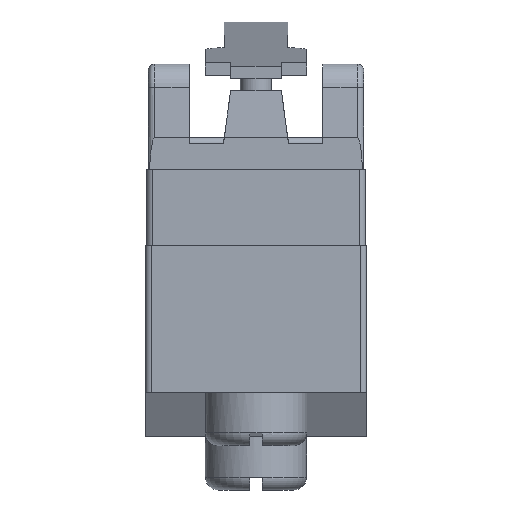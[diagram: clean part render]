
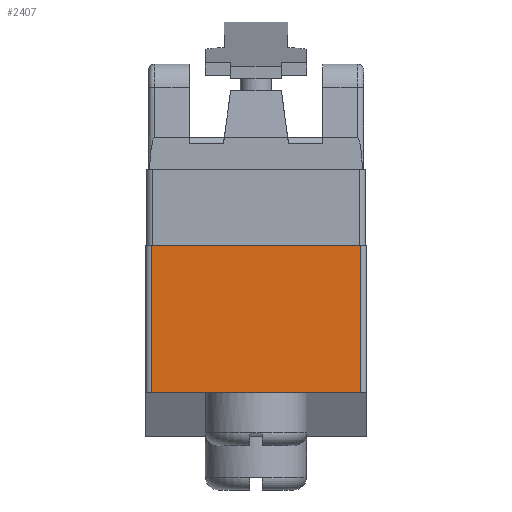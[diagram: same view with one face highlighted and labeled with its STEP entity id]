
A CAD part, front view. The second image highlights one B-rep face of the part: STEP entity #2407.
In plain terms, the highlighted planar face has unit normal (0, -1, 0).
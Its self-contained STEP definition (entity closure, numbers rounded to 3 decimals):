
#142=PLANE('',#2560);
#235=FACE_OUTER_BOUND('',#375,.T.);
#375=EDGE_LOOP('',(#1709,#1710,#1711,#1712));
#543=LINE('',#3544,#784);
#544=LINE('',#3547,#785);
#548=LINE('',#3559,#789);
#549=LINE('',#3560,#790);
#784=VECTOR('',#2831,11.6);
#785=VECTOR('',#2834,16.5);
#789=VECTOR('',#2844,16.5);
#790=VECTOR('',#2845,11.6);
#1109=VERTEX_POINT('',#3537);
#1112=VERTEX_POINT('',#3542);
#1113=VERTEX_POINT('',#3546);
#1118=VERTEX_POINT('',#3558);
#1345=EDGE_CURVE('',#1112,#1109,#543,.T.);
#1346=EDGE_CURVE('',#1113,#1109,#544,.T.);
#1352=EDGE_CURVE('',#1118,#1112,#548,.T.);
#1353=EDGE_CURVE('',#1113,#1118,#549,.T.);
#1709=ORIENTED_EDGE('',*,*,#1345,.F.);
#1710=ORIENTED_EDGE('',*,*,#1352,.F.);
#1711=ORIENTED_EDGE('',*,*,#1353,.F.);
#1712=ORIENTED_EDGE('',*,*,#1346,.T.);
#2407=ADVANCED_FACE('',(#235),#142,.T.);
#2560=AXIS2_PLACEMENT_3D('',#3557,#2842,#2843);
#2831=DIRECTION('',(0.,0.,-1.));
#2834=DIRECTION('',(1.,0.,0.));
#2842=DIRECTION('center_axis',(0.,-1.,0.));
#2843=DIRECTION('ref_axis',(0.,0.,-1.));
#2844=DIRECTION('',(1.,0.,0.));
#2845=DIRECTION('',(0.,0.,1.));
#3537=CARTESIAN_POINT('',(17.,-24.6,3.5));
#3542=CARTESIAN_POINT('',(17.,-24.6,15.1));
#3544=CARTESIAN_POINT('',(17.,-24.6,11.325));
#3546=CARTESIAN_POINT('',(0.5,-24.6,3.5));
#3547=CARTESIAN_POINT('',(8.75,-24.6,3.5));
#3557=CARTESIAN_POINT('Origin',(0.,-24.6,15.1));
#3558=CARTESIAN_POINT('',(0.5,-24.6,15.1));
#3559=CARTESIAN_POINT('',(0.,-24.6,15.1));
#3560=CARTESIAN_POINT('',(0.5,-24.6,11.325));
